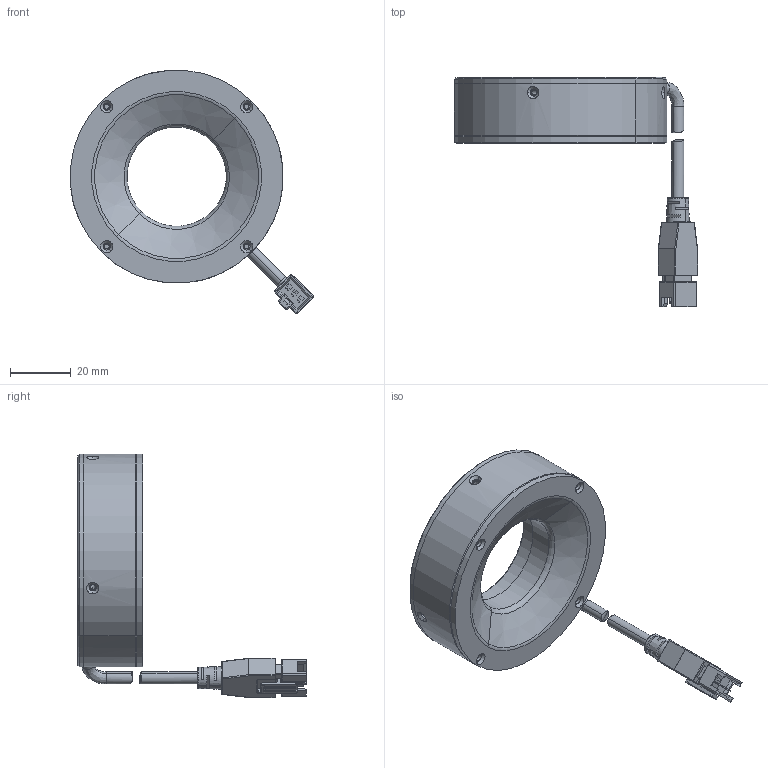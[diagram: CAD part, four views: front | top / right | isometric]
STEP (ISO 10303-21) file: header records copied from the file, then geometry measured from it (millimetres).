
FILE_DESCRIPTION (( 'STEP AP203' ), '1' );
FILE_NAME ('CRT-RL7060-¼òÒ×3DÍ¼.STEP', '2021-12-16T09:52:29', ( 'Admin' ), ( '' ), 'SwSTEP 2.0', 'SolidWorks 2018', '' );
FILE_SCHEMA (( 'CONFIG_CONTROL_DESIGN' ));
Length unit declared in the file: millimetre
Products named in the file (1): CRT-RL7060-潠眢3D芞
Bounding box: 79.85 x 75.2 x 79.86 mm (x, y, z)
Surface area: 19616 mm2 (no closed solid volume)
Topology: 0 solids, 6 shells, 287 faces, 804 edges, 512 vertices
Faces by surface type: plane 123, cylinder 102, bspline 30, cone 28, torus 4
Entity records: 10537 total; most frequent: CARTESIAN_POINT 3249, DIRECTION 1501, ORIENTED_EDGE 1449, EDGE_CURVE 792, AXIS2_PLACEMENT_3D 529, VERTEX_POINT 512, VECTOR 443, LINE 443
